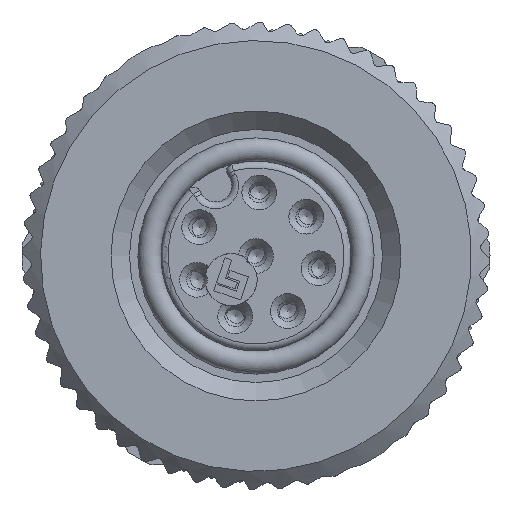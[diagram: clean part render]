
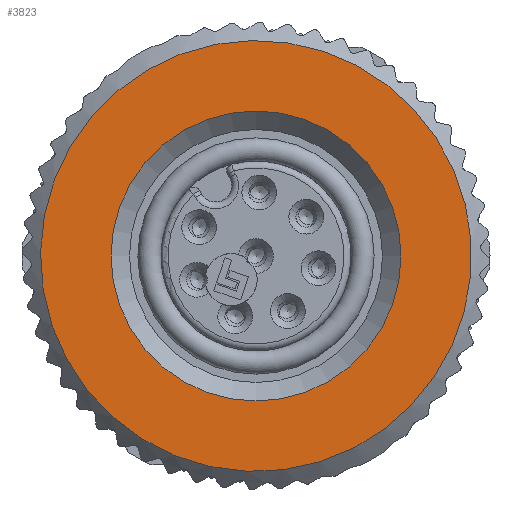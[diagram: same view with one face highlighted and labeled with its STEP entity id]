
A CAD part, left-side view. The second image highlights one B-rep face of the part: STEP entity #3823.
In plain terms, the highlighted planar face has unit normal (-1, 0, 0).
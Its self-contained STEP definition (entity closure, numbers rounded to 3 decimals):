
#206=PLANE('',#13582);
#3823=ADVANCED_FACE('',(#4767,#4768),#206,.T.);
#4767=FACE_BOUND('',#4898,.T.);
#4768=FACE_BOUND('',#4899,.T.);
#4898=EDGE_LOOP('',(#6104));
#4899=EDGE_LOOP('',(#6105));
#6104=ORIENTED_EDGE('',*,*,#11426,.T.);
#6105=ORIENTED_EDGE('',*,*,#11192,.T.);
#9848=VERTEX_POINT('',#20319);
#10066=VERTEX_POINT('',#20825);
#11192=EDGE_CURVE('',#9848,#9848,#12983,.T.);
#11426=EDGE_CURVE('',#10066,#10066,#13091,.T.);
#12983=CIRCLE('',#13455,9.3);
#13091=CIRCLE('',#13581,6.259);
#13455=AXIS2_PLACEMENT_3D('',#20318,#14668,#14669);
#13581=AXIS2_PLACEMENT_3D('',#20824,#15034,#15035);
#13582=AXIS2_PLACEMENT_3D('',#20826,#15036,#15037);
#14668=DIRECTION('',(-1.,0.,0.));
#14669=DIRECTION('',(0.,0.5,0.866));
#15034=DIRECTION('',(1.,0.,0.));
#15035=DIRECTION('',(0.,0.5,0.866));
#15036=DIRECTION('',(-1.,0.,0.));
#15037=DIRECTION('',(0.,0.5,0.866));
#20318=CARTESIAN_POINT('',(-12.15,-0.006,-0.013));
#20319=CARTESIAN_POINT('',(-12.15,4.644,8.041));
#20824=CARTESIAN_POINT('',(-12.15,-0.006,-0.013));
#20825=CARTESIAN_POINT('',(-12.15,3.123,5.407));
#20826=CARTESIAN_POINT('',(-12.15,-0.006,-0.013));
